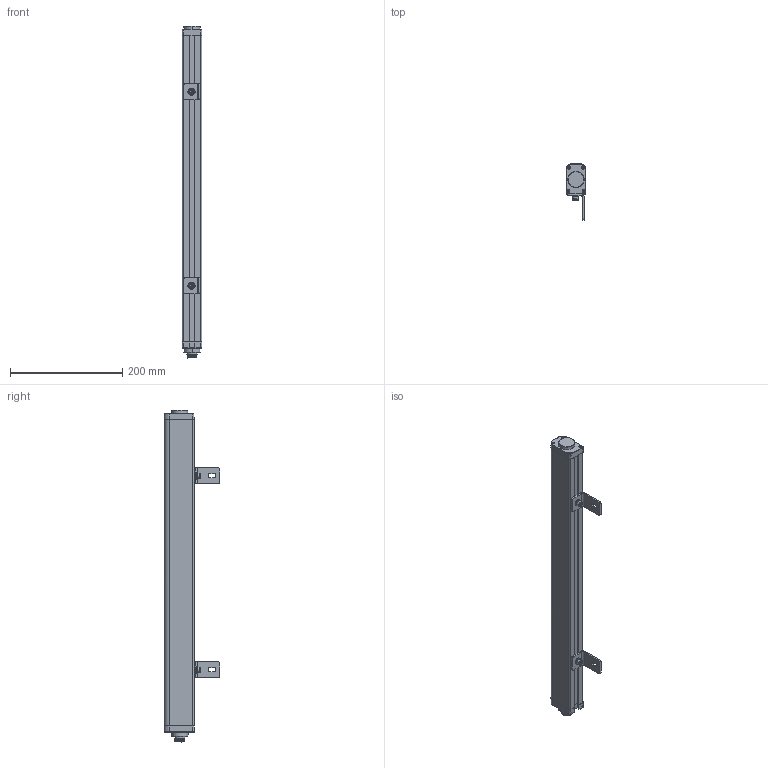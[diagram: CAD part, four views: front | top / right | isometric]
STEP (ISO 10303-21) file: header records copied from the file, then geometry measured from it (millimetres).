
FILE_DESCRIPTION((''),'2;1');
FILE_NAME('ESE8420_ASM','2021-07-12T14:59:54',('18720616900'),(''),'CREO PARAMETRIC BY PTC INC, 2019010','CREO PARAMETRIC BY PTC INC, 2019010','');
FILE_SCHEMA(('CONFIG_CONTROL_DESIGN'));
Length unit declared in the file: millimetre
Products named in the file (15): ESE--00; 000; ESE--000; HKCT2-1-SOLID1; HKCT11-1-SOLID1; 6_10001_ASM; ST-3-120001; L10001; M6-1-00; M6-1--00; M6-8--0001; 00; L1--0001_ASM; ESE8420_ASM
Assembly tree (22 placements, depth 3):
  ESE8420_ASM
    ESE--00
    000
    ESE--000
    ESE--000
    6_10001_ASM
      HKCT2-1-SOLID1
      HKCT11-1-SOLID1
    ST-3-120001  x8
    L1--0001_ASM  x2
      L10001
      M6-1-00
      M6-1--00
      M6-8--0001
      00
Bounding box: 35.3 x 99.3 x 590.59 mm (x, y, z)
Volume: 990102.8 mm3; surface area: 166843.1 mm2
Topology: 24 solids, 24 shells, 1203 faces, 3161 edges, 2022 vertices
Faces by surface type: plane 340, cylinder 306, cone 246, bspline 233, torus 64, sphere 14
Entity records: 41666 total; most frequent: CARTESIAN_POINT 27268, ORIENTED_EDGE 3088, DIRECTION 2720, EDGE_CURVE 1544, AXIS2_PLACEMENT_3D 1052, VERTEX_POINT 1019, EDGE_LOOP 661, VECTOR 616
